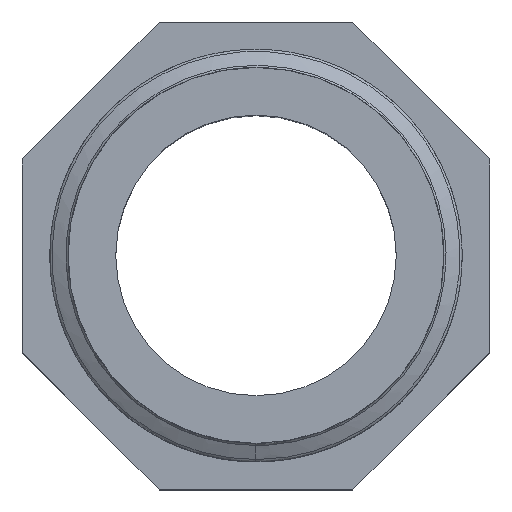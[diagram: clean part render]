
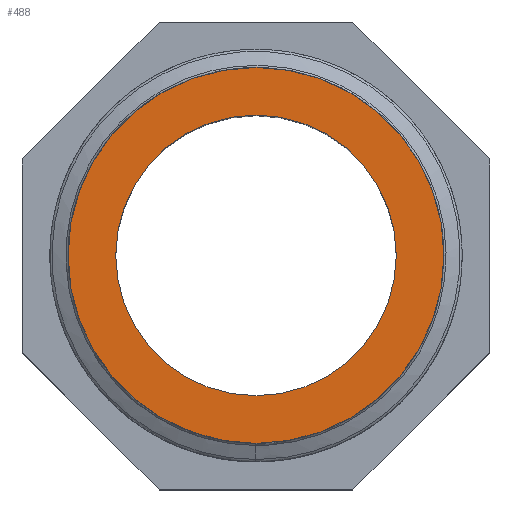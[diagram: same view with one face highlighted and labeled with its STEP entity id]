
A CAD part, top view. The second image highlights one B-rep face of the part: STEP entity #488.
In plain terms, the highlighted planar face has unit normal (0, 0, 1).
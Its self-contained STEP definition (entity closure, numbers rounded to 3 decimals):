
#18=FACE_BOUND('',#164,.T.);
#39=PLANE('',#521);
#130=FACE_OUTER_BOUND('',#163,.T.);
#163=EDGE_LOOP('',(#439));
#164=EDGE_LOOP('',(#440));
#174=CIRCLE('',#499,12.059);
#182=CIRCLE('',#522,9.);
#213=VERTEX_POINT('',#2057);
#249=VERTEX_POINT('',#7179);
#268=EDGE_CURVE('',#213,#213,#174,.T.);
#316=EDGE_CURVE('',#249,#249,#182,.T.);
#439=ORIENTED_EDGE('',*,*,#268,.T.);
#440=ORIENTED_EDGE('',*,*,#316,.F.);
#488=ADVANCED_FACE('',(#130,#18),#39,.T.);
#499=AXIS2_PLACEMENT_3D('',#3887,#542,#543);
#521=AXIS2_PLACEMENT_3D('',#7178,#614,#615);
#522=AXIS2_PLACEMENT_3D('',#7180,#616,#617);
#542=DIRECTION('center_axis',(0.,0.,1.));
#543=DIRECTION('ref_axis',(1.,0.,0.));
#614=DIRECTION('center_axis',(0.,0.,1.));
#615=DIRECTION('ref_axis',(1.,0.,0.));
#616=DIRECTION('center_axis',(0.,0.,1.));
#617=DIRECTION('ref_axis',(1.,0.,0.));
#2057=CARTESIAN_POINT('',(0.,-12.059,41.));
#3887=CARTESIAN_POINT('Origin',(0.,0.,41.));
#7178=CARTESIAN_POINT('Origin',(9.,0.,41.));
#7179=CARTESIAN_POINT('',(9.,0.,41.));
#7180=CARTESIAN_POINT('Origin',(0.,0.,41.));
